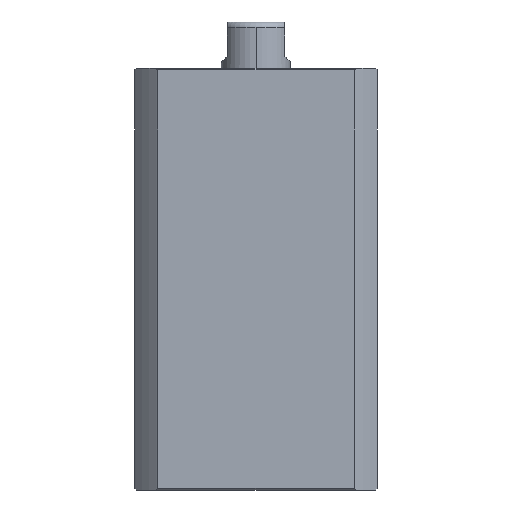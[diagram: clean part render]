
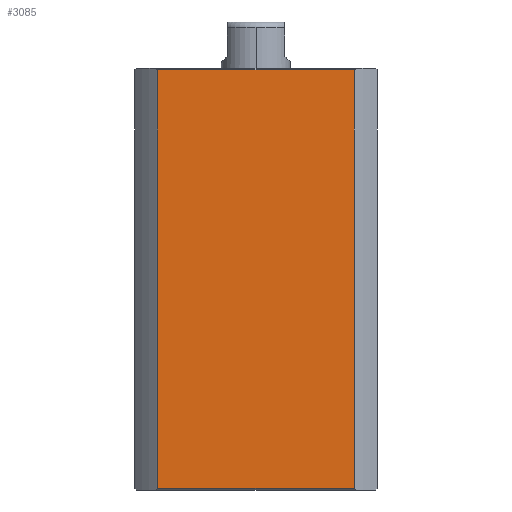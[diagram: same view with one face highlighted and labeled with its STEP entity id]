
A CAD part, left-side view. The second image highlights one B-rep face of the part: STEP entity #3085.
In plain terms, the highlighted planar face has unit normal (-1, 0, 0).
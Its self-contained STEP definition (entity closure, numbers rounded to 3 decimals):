
#54 = CARTESIAN_POINT ( 'NONE',  ( -21., 16.971, 72.7 ) ) ;
#55 = EDGE_CURVE ( 'NONE', #5040, #6793, #2182, .T. ) ;
#516 = ORIENTED_EDGE ( 'NONE', *, *, #6200, .T. ) ;
#941 = VECTOR ( 'NONE', #7055, 1000. ) ;
#2182 = LINE ( 'NONE', #6179, #6952 ) ;
#3085 = ADVANCED_FACE ( 'NONE', ( #6039 ), #7364, .F. ) ;
#3169 = ORIENTED_EDGE ( 'NONE', *, *, #55, .T. ) ;
#3385 = LINE ( 'NONE', #3466, #941 ) ;
#3466 = CARTESIAN_POINT ( 'NONE',  ( -21., -16.971, -127. ) ) ;
#3914 = CARTESIAN_POINT ( 'NONE',  ( -21., 16.971, -127. ) ) ;
#3916 = CARTESIAN_POINT ( 'NONE',  ( -21., 16.971, 0.3 ) ) ;
#3925 = EDGE_LOOP ( 'NONE', ( #8788, #516, #6495, #3169 ) ) ;
#3973 = VECTOR ( 'NONE', #4601, 1000. ) ;
#4036 = EDGE_CURVE ( 'NONE', #7281, #6793, #10527, .T. ) ;
#4601 = DIRECTION ( 'NONE',  ( 0., -1., 0. ) ) ;
#4648 = DIRECTION ( 'NONE',  ( 1., 0., 0. ) ) ;
#5040 = VERTEX_POINT ( 'NONE', #6050 ) ;
#5271 = DIRECTION ( 'NONE',  ( 0., 1., 0. ) ) ;
#5969 = AXIS2_PLACEMENT_3D ( 'NONE', #9992, #4648, #10897 ) ;
#6039 = FACE_OUTER_BOUND ( 'NONE', #3925, .T. ) ;
#6050 = CARTESIAN_POINT ( 'NONE',  ( -21., -16.971, 72.7 ) ) ;
#6179 = CARTESIAN_POINT ( 'NONE',  ( -21., 21., 72.7 ) ) ;
#6200 = EDGE_CURVE ( 'NONE', #7281, #9486, #6347, .T. ) ;
#6347 = LINE ( 'NONE', #9948, #3973 ) ;
#6495 = ORIENTED_EDGE ( 'NONE', *, *, #8980, .F. ) ;
#6793 = VERTEX_POINT ( 'NONE', #54 ) ;
#6952 = VECTOR ( 'NONE', #5271, 1000. ) ;
#7055 = DIRECTION ( 'NONE',  ( 0., 0., -1. ) ) ;
#7281 = VERTEX_POINT ( 'NONE', #3916 ) ;
#7364 = PLANE ( 'NONE',  #5969 ) ;
#8262 = CARTESIAN_POINT ( 'NONE',  ( -21., -16.971, 0.3 ) ) ;
#8788 = ORIENTED_EDGE ( 'NONE', *, *, #4036, .F. ) ;
#8980 = EDGE_CURVE ( 'NONE', #5040, #9486, #3385, .T. ) ;
#9486 = VERTEX_POINT ( 'NONE', #8262 ) ;
#9948 = CARTESIAN_POINT ( 'NONE',  ( -21., 21., 0.3 ) ) ;
#9992 = CARTESIAN_POINT ( 'NONE',  ( -21., 21., 73. ) ) ;
#10174 = DIRECTION ( 'NONE',  ( 0., 0., 1. ) ) ;
#10527 = LINE ( 'NONE', #3914, #11117 ) ;
#10897 = DIRECTION ( 'NONE',  ( 0., 1., 0. ) ) ;
#11117 = VECTOR ( 'NONE', #10174, 1000. ) ;
